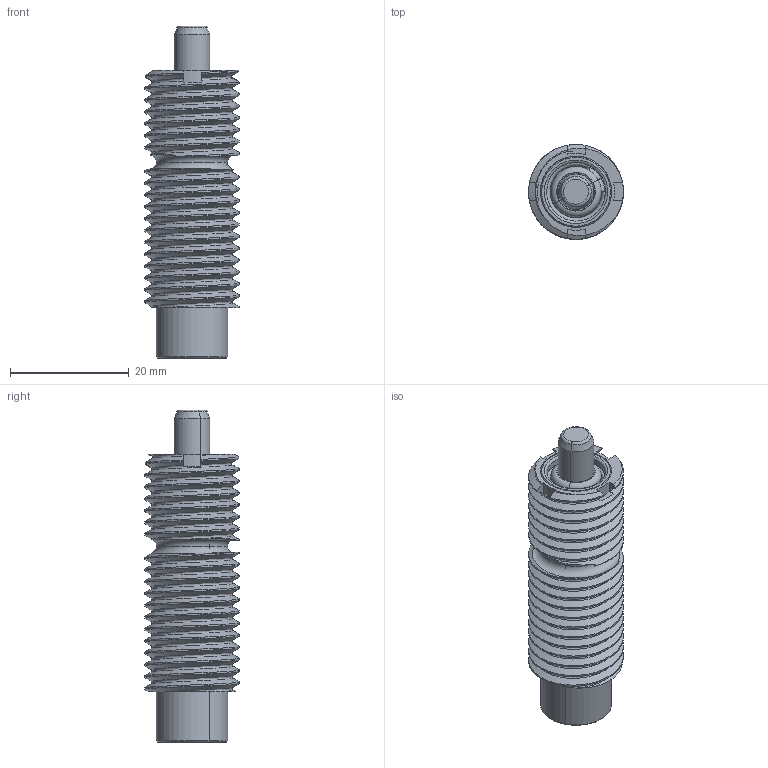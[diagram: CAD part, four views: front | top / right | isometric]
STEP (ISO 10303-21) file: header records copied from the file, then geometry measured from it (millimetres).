
FILE_DESCRIPTION(('FreeCAD Model'),'2;1');
FILE_NAME('Open CASCADE Shape Model','2024-09-16T08:56:11',('Author'),( ''),'Open CASCADE STEP processor 7.6','FreeCAD','Unknown');
FILE_SCHEMA(('AUTOMOTIVE_DESIGN { 1 0 10303 214 1 1 1 1 }'));
Length unit declared in the file: millimetre
Products named in the file (10): TPRN16x7; C:\Documents and Settings\Luisg\Mis documentos\Dibujos catálogo 
2009\MICRO25x032; C:\Documents and Settings\Luisg\Mis documentos\Dibujos catálogo 
2009\MICRO25x25; C:\Documents and Settings\Luisg\Mis documentos\Dibujos catálogo 
2009\MICRO25x026; C:\Documents and Settings\Luisg\Mis documentos\Dibujos catálogo 
2009\MICRO25x027; C:\Documents and Settings\Luisg\Mis documentos\Dibujos catálogo 
2009\MICRO25x028; C:\Documents and Settings\Luisg\Mis documentos\Dibujos catálogo 
2009\MICRO25x029; C:\Documents and Settings\Luisg\Mis documentos\Dibujos catálogo 
2009\MICRO25x030; C:\Documents and Settings\Luisg\Mis documentos\Dibujos catálogo 
2009\MICRO25x031; Cut004
Assembly tree (9 placements, depth 3):
  TPRN16x7
    C:\Documents and Settings\Luisg\Mis documentos\Dibujos catálogo 
2009\MICRO25x032
      C:\Documents and Settings\Luisg\Mis documentos\Dibujos catálogo 
2009\MICRO25x25
      C:\Documents and Settings\Luisg\Mis documentos\Dibujos catálogo 
2009\MICRO25x026
      C:\Documents and Settings\Luisg\Mis documentos\Dibujos catálogo 
2009\MICRO25x027
      C:\Documents and Settings\Luisg\Mis documentos\Dibujos catálogo 
2009\MICRO25x028
      C:\Documents and Settings\Luisg\Mis documentos\Dibujos catálogo 
2009\MICRO25x029
      C:\Documents and Settings\Luisg\Mis documentos\Dibujos catálogo 
2009\MICRO25x030
      C:\Documents and Settings\Luisg\Mis documentos\Dibujos catálogo 
2009\MICRO25x031
    Cut004
Bounding box: 16 x 16 x 56 mm (x, y, z)
Volume: 5950.7 mm3; surface area: 10642.5 mm2
Topology: 9 solids, 9 shells, 266 faces, 567 edges, 328 vertices
Faces by surface type: cylinder 74, bspline 73, torus 48, plane 45, cone 26
Full cylindrical faces by diameter (mm): 12 x2, 16 x17
Entity records: 15107 total; most frequent: CARTESIAN_POINT 9663, ORIENTED_EDGE 1134, DIRECTION 996, EDGE_CURVE 567, AXIS2_PLACEMENT_3D 427, VERTEX_POINT 328, FACE_BOUND 285, EDGE_LOOP 285
